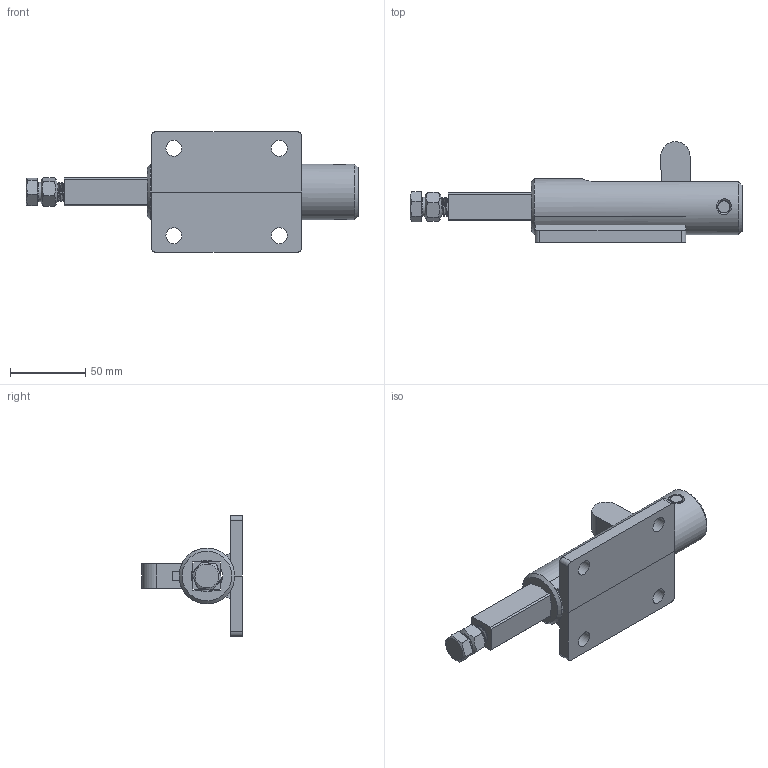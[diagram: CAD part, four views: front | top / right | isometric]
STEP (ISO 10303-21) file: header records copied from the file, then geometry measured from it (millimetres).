
FILE_DESCRIPTION(/* description */ ('STEP AP203'),/* implementation_level */ '2;1');
FILE_NAME(/* name */ 'D:\Vault_2016\Projekty\STRONA\Push-pull clamp\CH-30510M\CH-30510M_ZAMKNIETY.stp',/* time_stamp */ '2019-01-10T15:59:29+01:00',/* author */ ('user'),/* organization */ ('·L?¤¤?'),/* preprocessor_version */ 'ST-DEVELOPER v17.2',/* originating_system */ 'Autodesk Inventor 2019',/* authorisation */ '');
FILE_SCHEMA (('AUTOMOTIVE_DESIGN { 1 0 10303 214 3 1 1 }'));
Products named in the file (11): CH-30510M_ZAMKNIETY; CH-30510M-04___; CH-30510M-01____ûV¡ø_; CH-30509-07___; CH-30510M-02___; CH-30509-09___; CH-30509-08___; M12___; CH-30510M-03___; M12X50___; CH-30509-06___
Assembly tree (10 placements, depth 2):
  CH-30510M_ZAMKNIETY
    CH-30510M-04___
    CH-30510M-01____ûV¡ø_
    CH-30509-07___
    CH-30510M-02___
    CH-30509-09___
    CH-30509-08___
    M12___
    CH-30510M-03___
    M12X50___
    CH-30509-06___
Bounding box: 220.49 x 66.76 x 80 mm (x, y, z)
Volume: 209386.4 mm3; surface area: 88807.7 mm2
Topology: 15 solids, 15 shells, 1023 faces, 2979 edges, 1996 vertices
Faces by surface type: plane 847, cylinder 94, bspline 55, cone 26, torus 1
Full cylindrical faces by diameter (mm): 8 x12, 10.25 x28, 10.5 x8, 12 x2, 12.7 x22, 37 x1
Entity records: 65401 total; most frequent: CARTESIAN_POINT 37902, ORIENTED_EDGE 5956, DIRECTION 5319, EDGE_CURVE 2978, LINE 2101, VECTOR 2101, VERTEX_POINT 1996, AXIS2_PLACEMENT_3D 1609
